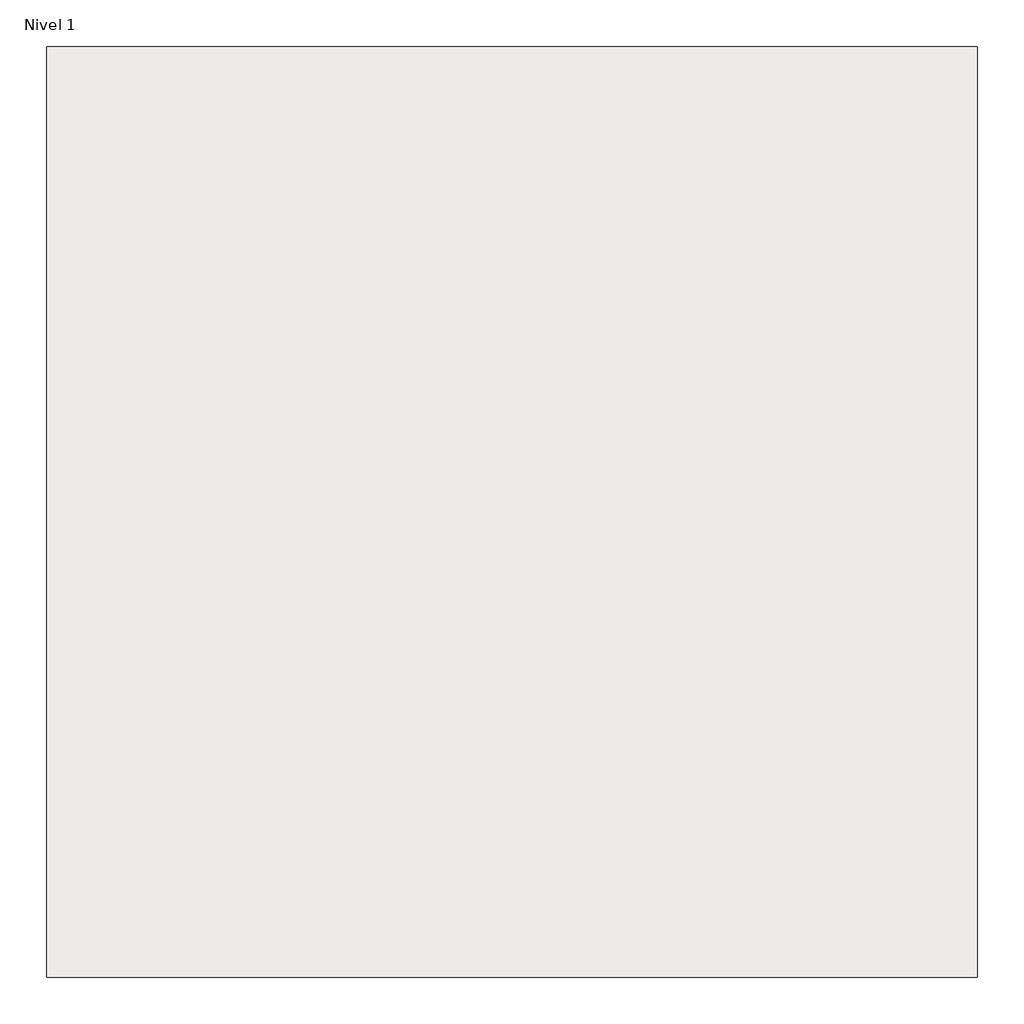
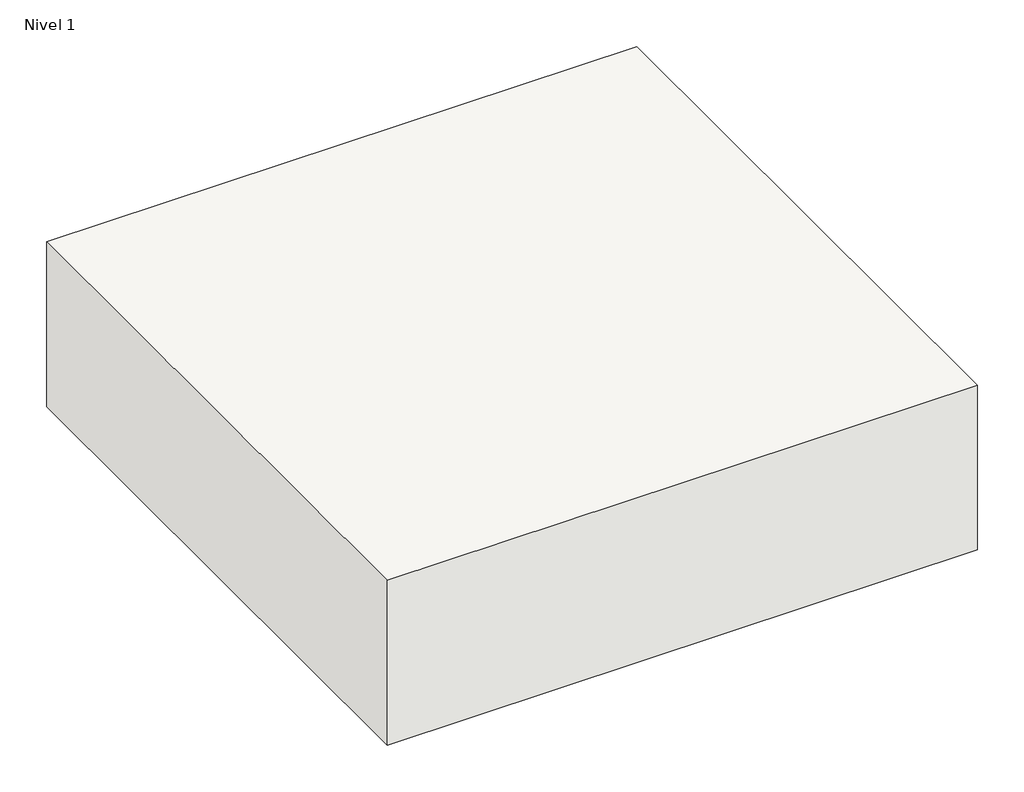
# One storey: 1 slab.
"""IFC4 building model written with IfcOpenShell, lengths in millimetres."""

from ifc_helpers import new_model, si_unit, frame, origin, place, context, project, spatial, polyline, outline, extrude, element, save

model = new_model("IFC4")

# Units and contexts
model_context = context("Model", 3, world=origin())
ifc_project = project(units=[si_unit("LENGTHUNIT", "METRE", prefix="MILLI")], contexts=[model_context])

# Site, building, storey
site = spatial("IfcSite", under=ifc_project)
building = spatial("IfcBuilding", under=site)
storey = spatial("IfcBuildingStorey", under=building, Name="Nivel 1", Elevation=0.0)

# Slab
placement = place(None, origin())
element("IfcSlab", 1, ObjectType="Aisl. poliuretano + CC + Acabado cerámico", at=placement, inside=storey, context=model_context, shape_type="SweptSolid", body=[
    extrude(outline(polyline([(-2466.6607633, 3904.5927144), (-3466.6607633, 3904.5927144), (-3466.6607633, 4904.5927144), (-2466.6607633, 4904.5927144), (-2466.6607633, 3904.5927144)])), frame((0.0, 0.0, -295.0), z_axis=(0.0, 0.0, 1.0), x_axis=(1.0, 0.0, 0.0)), (0.0, 0.0, 1.0), 295.0),
])

save(model, "model.ifc")
